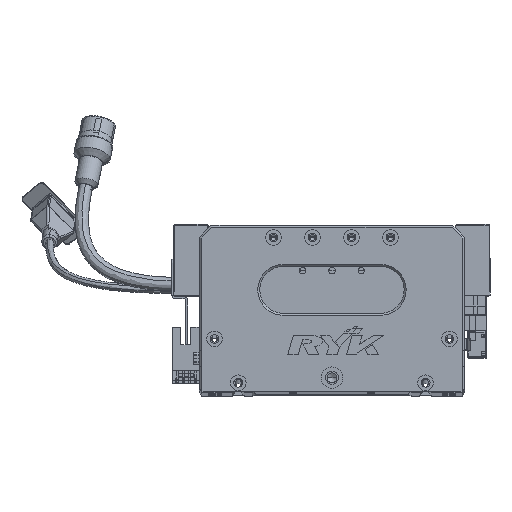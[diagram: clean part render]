
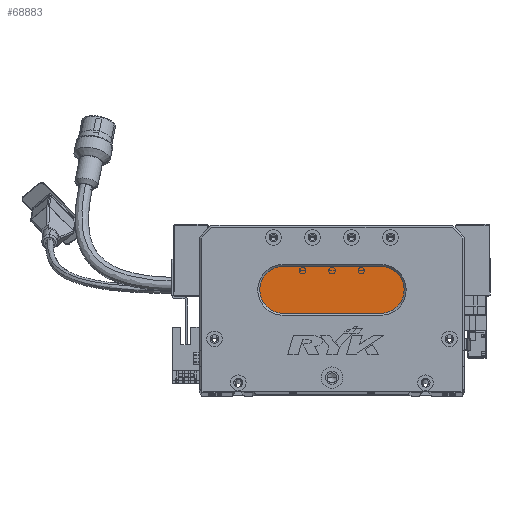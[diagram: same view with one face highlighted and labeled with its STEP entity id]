
A CAD part, top view. The second image highlights one B-rep face of the part: STEP entity #68883.
In plain terms, the highlighted planar face has unit normal (0, 0, 1) as drawn and (0, 0, -1) by its records, which use the part's own axes.
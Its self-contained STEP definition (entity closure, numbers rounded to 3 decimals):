
#4640 = CIRCLE ( 'NONE', #77417, 12. ) ;
#13343 = EDGE_CURVE ( 'NONE', #35879, #41204, #24946, .T. ) ;
#13766 = CARTESIAN_POINT ( 'NONE',  ( 43., 40., 13. ) ) ;
#17034 = FACE_OUTER_BOUND ( 'NONE', #78065, .T. ) ;
#18612 = VECTOR ( 'NONE', #29830, 1000. ) ;
#19750 = DIRECTION ( 'NONE',  ( 0., 0., -1. ) ) ;
#20489 = VECTOR ( 'NONE', #75412, 1000. ) ;
#24946 = LINE ( 'NONE', #70108, #18612 ) ;
#25414 = PLANE ( 'NONE',  #45813 ) ;
#26788 = CIRCLE ( 'NONE', #43896, 12. ) ;
#26864 = EDGE_CURVE ( 'NONE', #44877, #59035, #26788, .T. ) ;
#29830 = DIRECTION ( 'NONE',  ( 1., 0., 0. ) ) ;
#32550 = CARTESIAN_POINT ( 'NONE',  ( 43., 52., 13. ) ) ;
#35844 = ORIENTED_EDGE ( 'NONE', *, *, #58959, .T. ) ;
#35879 = VERTEX_POINT ( 'NONE', #63115 ) ;
#38448 = EDGE_CURVE ( 'NONE', #41204, #42040, #4640, .T. ) ;
#38735 = EDGE_CURVE ( 'NONE', #59035, #35879, #52966, .T. ) ;
#38972 = ORIENTED_EDGE ( 'NONE', *, *, #38448, .T. ) ;
#39041 = DIRECTION ( 'NONE',  ( 0., 0., -1. ) ) ;
#40066 = CARTESIAN_POINT ( 'NONE',  ( 93., 64., 13. ) ) ;
#40926 = CARTESIAN_POINT ( 'NONE',  ( 43., 52., 13. ) ) ;
#41204 = VERTEX_POINT ( 'NONE', #40066 ) ;
#42040 = VERTEX_POINT ( 'NONE', #76612 ) ;
#43896 = AXIS2_PLACEMENT_3D ( 'NONE', #32550, #39041, #79539 ) ;
#44877 = VERTEX_POINT ( 'NONE', #13766 ) ;
#45700 = CARTESIAN_POINT ( 'NONE',  ( 93., 52., 13. ) ) ;
#45813 = AXIS2_PLACEMENT_3D ( 'NONE', #45700, #78569, #79163 ) ;
#48928 = CARTESIAN_POINT ( 'NONE',  ( 93., 52., 13. ) ) ;
#49946 = LINE ( 'NONE', #56001, #20489 ) ;
#50075 = DIRECTION ( 'NONE',  ( -1., 0., 0. ) ) ;
#52966 = CIRCLE ( 'NONE', #78558, 12. ) ;
#56001 = CARTESIAN_POINT ( 'NONE',  ( 93., 40., 13. ) ) ;
#58959 = EDGE_CURVE ( 'NONE', #42040, #44877, #49946, .T. ) ;
#59035 = VERTEX_POINT ( 'NONE', #63890 ) ;
#63115 = CARTESIAN_POINT ( 'NONE',  ( 43., 64., 13. ) ) ;
#63890 = CARTESIAN_POINT ( 'NONE',  ( 31., 52., 13. ) ) ;
#68883 = ADVANCED_FACE ( 'NONE', ( #17034 ), #25414, .T. ) ;
#70108 = CARTESIAN_POINT ( 'NONE',  ( 93., 64., 13. ) ) ;
#70589 = ORIENTED_EDGE ( 'NONE', *, *, #26864, .T. ) ;
#71754 = ORIENTED_EDGE ( 'NONE', *, *, #38735, .T. ) ;
#73555 = DIRECTION ( 'NONE',  ( -1., 0., 0. ) ) ;
#75412 = DIRECTION ( 'NONE',  ( -1., 0., 0. ) ) ;
#76612 = CARTESIAN_POINT ( 'NONE',  ( 93., 40., 13. ) ) ;
#77417 = AXIS2_PLACEMENT_3D ( 'NONE', #48928, #82374, #50075 ) ;
#78065 = EDGE_LOOP ( 'NONE', ( #38972, #35844, #70589, #71754, #78246 ) ) ;
#78246 = ORIENTED_EDGE ( 'NONE', *, *, #13343, .T. ) ;
#78558 = AXIS2_PLACEMENT_3D ( 'NONE', #40926, #19750, #73555 ) ;
#78569 = DIRECTION ( 'NONE',  ( 0., 0., -1. ) ) ;
#79163 = DIRECTION ( 'NONE',  ( -1., 0., 0. ) ) ;
#79539 = DIRECTION ( 'NONE',  ( -1., 0., 0. ) ) ;
#82374 = DIRECTION ( 'NONE',  ( 0., 0., -1. ) ) ;
